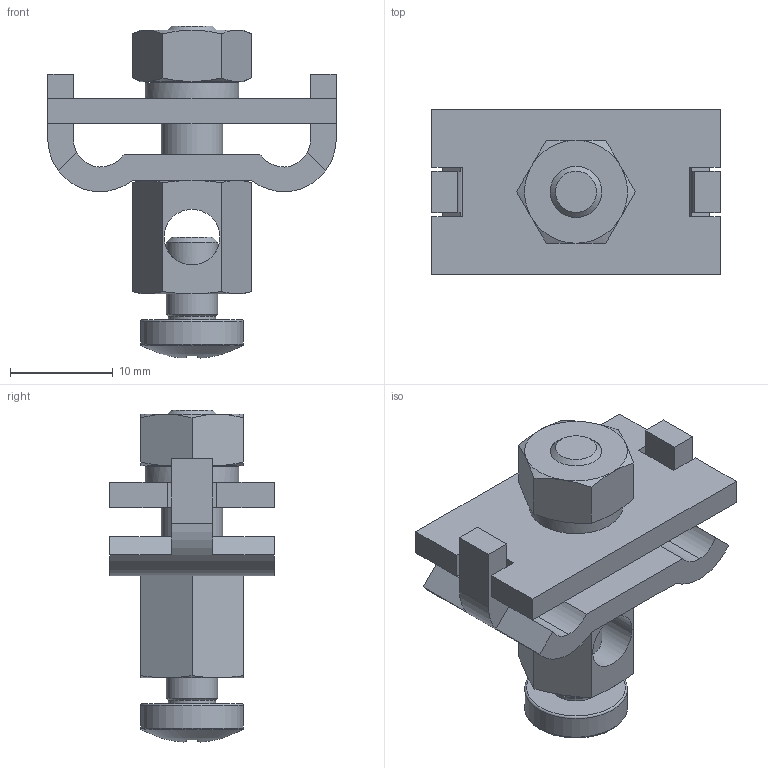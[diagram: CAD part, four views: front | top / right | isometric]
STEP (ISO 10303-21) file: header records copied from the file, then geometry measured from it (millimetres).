
FILE_DESCRIPTION(/* description */ ('Unknown'),/* implementation_level */ '2;1');
FILE_NAME(/* name */ 'ZS 10 P',/* time_stamp */ '2021-10-13T11:19:37+02:00',/* author */ ('Unknown'),/* organization */ ('Unknown'),/* preprocessor_version */ 'ST-DEVELOPER v16.7',/* originating_system */ 'Solid Edge',/* authorisation */ 'Unknown');
FILE_SCHEMA (('AUTOMOTIVE_DESIGN {1 0 10303 214 3 1 1}'));
Length unit declared in the file: millimetre
Products named in the file (1): ZS 10 P
Bounding box: 28 x 16 x 32.24 mm (x, y, z)
Volume: 3877.2 mm3; surface area: 3779.2 mm2
Topology: 2 solids, 2 shells, 219 faces, 516 edges, 329 vertices
Faces by surface type: plane 166, cone 28, cylinder 20, torus 4, sphere 1
Full cylindrical faces by diameter (mm): 4.6 x1, 5 x3, 5.4 x1, 6 x2, 6.5 x2, 10 x1
Entity records: 6959 total; most frequent: CARTESIAN_POINT 1207, DIRECTION 988, ORIENTED_EDGE 978, EDGE_CURVE 489, AXIS2_PLACEMENT_3D 332, LINE 324, VECTOR 324, VERTEX_POINT 320
